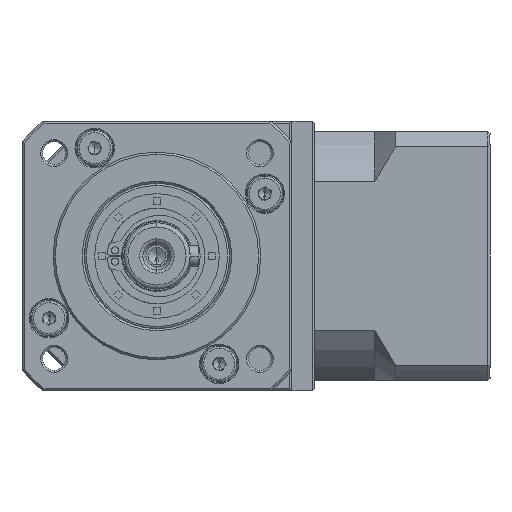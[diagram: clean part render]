
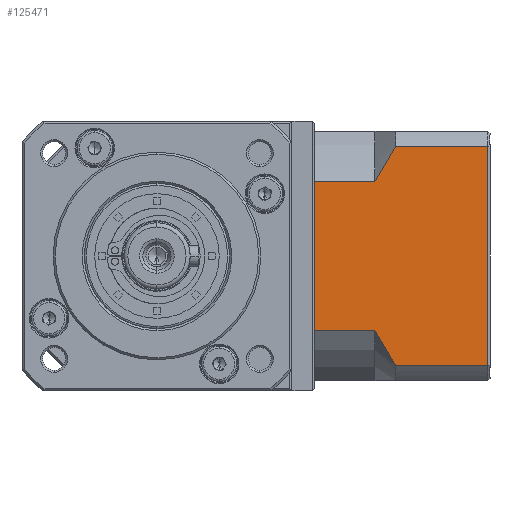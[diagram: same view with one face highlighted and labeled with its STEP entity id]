
A CAD part, left-side view. The second image highlights one B-rep face of the part: STEP entity #125471.
In plain terms, the highlighted planar face has unit normal (-1, 0, 0).
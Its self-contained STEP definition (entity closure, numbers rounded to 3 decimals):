
#171 = VERTEX_POINT ( 'NONE', #70012 ) ;
#2483 = VECTOR ( 'NONE', #29811, 1000. ) ;
#3398 = CARTESIAN_POINT ( 'NONE',  ( -38.56, -73.075, -93.122 ) ) ;
#5223 = DIRECTION ( 'NONE',  ( 0., -1., 0. ) ) ;
#8859 = CARTESIAN_POINT ( 'NONE',  ( -38.56, -68.075, -101.552 ) ) ;
#16581 = CARTESIAN_POINT ( 'NONE',  ( -38.56, -53.575, -137.608 ) ) ;
#22800 = CARTESIAN_POINT ( 'NONE',  ( -38.56, -68.075, -101.552 ) ) ;
#26034 = CARTESIAN_POINT ( 'NONE',  ( -38.56, -95.775, -149.58 ) ) ;
#26253 = CARTESIAN_POINT ( 'NONE',  ( -38.56, -69.626, -98.669 ) ) ;
#29811 = DIRECTION ( 'NONE',  ( 0., 0., 1. ) ) ;
#30604 = AXIS2_PLACEMENT_3D ( 'NONE', #26034, #114689, #38745 ) ;
#36460 = EDGE_CURVE ( 'NONE', #154877, #139944, #58013, .T. ) ;
#37396 = CARTESIAN_POINT ( 'NONE',  ( -38.56, -95.275, -146.037 ) ) ;
#38745 = DIRECTION ( 'NONE',  ( 0., 1., 0. ) ) ;
#38965 = CARTESIAN_POINT ( 'NONE',  ( -38.56, -68.075, -101.552 ) ) ;
#40336 = CARTESIAN_POINT ( 'NONE',  ( -38.56, -71.299, -143.295 ) ) ;
#44947 = CARTESIAN_POINT ( 'NONE',  ( -38.56, -68.075, -93.122 ) ) ;
#53085 = CARTESIAN_POINT ( 'NONE',  ( -38.56, -73.075, -146.037 ) ) ;
#54713 = CARTESIAN_POINT ( 'NONE',  ( -38.56, -95.275, -149.58 ) ) ;
#58013 = LINE ( 'NONE', #125373, #155271 ) ;
#60067 = LINE ( 'NONE', #44947, #127575 ) ;
#61492 = DIRECTION ( 'NONE',  ( 0., -1., 0. ) ) ;
#61495 = CARTESIAN_POINT ( 'NONE',  ( -38.56, -68.075, -137.608 ) ) ;
#65223 = CARTESIAN_POINT ( 'NONE',  ( -38.56, -68.075, -137.608 ) ) ;
#65756 = VERTEX_POINT ( 'NONE', #37396 ) ;
#67991 = LINE ( 'NONE', #22800, #101724 ) ;
#69656 = LINE ( 'NONE', #54713, #2483 ) ;
#69959 = ORIENTED_EDGE ( 'NONE', *, *, #160739, .F. ) ;
#70012 = CARTESIAN_POINT ( 'NONE',  ( -38.56, -73.075, -146.037 ) ) ;
#70344 = EDGE_CURVE ( 'NONE', #154877, #114686, #67991, .T. ) ;
#73949 = ORIENTED_EDGE ( 'NONE', *, *, #84223, .T. ) ;
#74842 = VECTOR ( 'NONE', #141678, 1000. ) ;
#75092 = VERTEX_POINT ( 'NONE', #3398 ) ;
#76599 = CARTESIAN_POINT ( 'NONE',  ( -38.56, -72.175, -94.482 ) ) ;
#77670 = ORIENTED_EDGE ( 'NONE', *, *, #163884, .F. ) ;
#78139 = ORIENTED_EDGE ( 'NONE', *, *, #155449, .T. ) ;
#78851 = CARTESIAN_POINT ( 'NONE',  ( -38.56, -68.075, -137.608 ) ) ;
#78853 = LINE ( 'NONE', #124934, #74842 ) ;
#79508 = VECTOR ( 'NONE', #129873, 1000. ) ;
#82842 = FACE_OUTER_BOUND ( 'NONE', #110820, .T. ) ;
#84223 = EDGE_CURVE ( 'NONE', #65756, #134502, #69656, .T. ) ;
#84911 = ORIENTED_EDGE ( 'NONE', *, *, #70344, .F. ) ;
#88314 = EDGE_CURVE ( 'NONE', #115877, #171, #117007, .T. ) ;
#89215 = ORIENTED_EDGE ( 'NONE', *, *, #36460, .T. ) ;
#89332 = CARTESIAN_POINT ( 'NONE',  ( -38.56, -73.075, -93.122 ) ) ;
#93562 = ORIENTED_EDGE ( 'NONE', *, *, #107550, .F. ) ;
#93875 = ORIENTED_EDGE ( 'NONE', *, *, #88314, .T. ) ;
#101724 = VECTOR ( 'NONE', #61492, 1000. ) ;
#102071 = CARTESIAN_POINT ( 'NONE',  ( -38.56, -71.302, -95.861 ) ) ;
#103464 = CARTESIAN_POINT ( 'NONE',  ( -38.56, -68.825, -139.064 ) ) ;
#107550 = EDGE_CURVE ( 'NONE', #115877, #139944, #113256, .T. ) ;
#110820 = EDGE_LOOP ( 'NONE', ( #69959, #73949, #77670, #78139, #84911, #89215, #93562, #93875 ) ) ;
#113256 = LINE ( 'NONE', #78851, #79508 ) ;
#114550 = CARTESIAN_POINT ( 'NONE',  ( -38.56, -53.575, -101.552 ) ) ;
#114686 = VERTEX_POINT ( 'NONE', #8859 ) ;
#114689 = DIRECTION ( 'NONE',  ( 1., 0., 0. ) ) ;
#114893 = CARTESIAN_POINT ( 'NONE',  ( -38.56, -68.823, -100.1 ) ) ;
#115513 = CARTESIAN_POINT ( 'NONE',  ( -38.56, -95.275, -93.122 ) ) ;
#115877 = VERTEX_POINT ( 'NONE', #61495 ) ;
#116258 = CARTESIAN_POINT ( 'NONE',  ( -38.56, -69.625, -140.489 ) ) ;
#117007 = B_SPLINE_CURVE_WITH_KNOTS ( 'NONE', 3,
 ( #65223, #103464, #116258, #40336, #129004, #53085 ),
 .UNSPECIFIED., .F., .F.,
 ( 4, 2, 4 ),
 ( 0.1, 0.104, 0.109 ),
 .UNSPECIFIED. ) ;
#124934 = CARTESIAN_POINT ( 'NONE',  ( -38.56, -68.075, -146.037 ) ) ;
#125373 = CARTESIAN_POINT ( 'NONE',  ( -38.56, -53.575, -149.58 ) ) ;
#125471 = ADVANCED_FACE ( 'NONE', ( #82842 ), #139695, .F. ) ;
#126500 = DIRECTION ( 'NONE',  ( 0., 0., -1. ) ) ;
#127575 = VECTOR ( 'NONE', #5223, 1000. ) ;
#129004 = CARTESIAN_POINT ( 'NONE',  ( -38.56, -72.173, -144.675 ) ) ;
#129873 = DIRECTION ( 'NONE',  ( 0., 1., 0. ) ) ;
#134502 = VERTEX_POINT ( 'NONE', #115513 ) ;
#138810 = B_SPLINE_CURVE_WITH_KNOTS ( 'NONE', 3,
 ( #89332, #76599, #102071, #26253, #114893, #38965 ),
 .UNSPECIFIED., .F., .F.,
 ( 4, 2, 4 ),
 ( 0.052, 0.057, 0.062 ),
 .UNSPECIFIED. ) ;
#139695 = PLANE ( 'NONE',  #30604 ) ;
#139944 = VERTEX_POINT ( 'NONE', #16581 ) ;
#141678 = DIRECTION ( 'NONE',  ( 0., 1., 0. ) ) ;
#154877 = VERTEX_POINT ( 'NONE', #114550 ) ;
#155271 = VECTOR ( 'NONE', #126500, 1000. ) ;
#155449 = EDGE_CURVE ( 'NONE', #75092, #114686, #138810, .T. ) ;
#160739 = EDGE_CURVE ( 'NONE', #65756, #171, #78853, .T. ) ;
#163884 = EDGE_CURVE ( 'NONE', #75092, #134502, #60067, .T. ) ;
